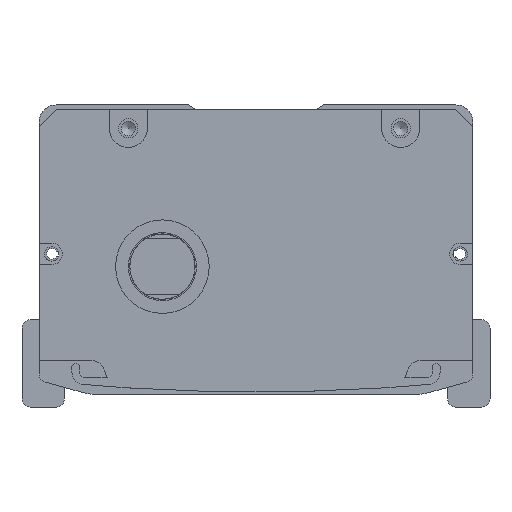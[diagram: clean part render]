
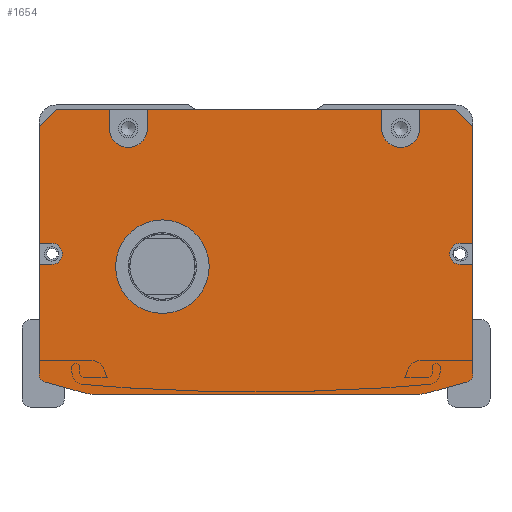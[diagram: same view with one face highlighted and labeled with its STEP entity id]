
A CAD part, front view. The second image highlights one B-rep face of the part: STEP entity #1654.
In plain terms, the highlighted planar face has unit normal (0, -1, 0).
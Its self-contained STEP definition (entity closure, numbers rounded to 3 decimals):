
#990=FACE_BOUND('',#3118,.T.);
#991=FACE_BOUND('',#3119,.T.);
#1654=ADVANCED_FACE('',(#990,#991),#2265,.F.);
#2265=PLANE('',#11995);
#3118=EDGE_LOOP('',(#5507,#5508,#5509,#5510,#5511,#5512,#5513,#5514,#5515,
#5516,#5517,#5518,#5519,#5520,#5521,#5522,#5523,#5524,#5525,#5526,#5527,
#5528,#5529,#5530,#5531,#5532,#5533,#5534));
#3119=EDGE_LOOP('',(#5535));
#4097=CIRCLE('',#11986,4.5);
#4098=CIRCLE('',#11987,4.5);
#4099=CIRCLE('',#11988,2.5);
#4100=CIRCLE('',#11989,2.);
#4101=CIRCLE('',#11990,10.);
#4102=CIRCLE('',#11991,10.);
#4103=CIRCLE('',#11992,2.);
#4104=CIRCLE('',#11993,2.5);
#4105=CIRCLE('',#11994,11.);
#5507=ORIENTED_EDGE('',*,*,#8872,.T.);
#5508=ORIENTED_EDGE('',*,*,#9290,.T.);
#5509=ORIENTED_EDGE('',*,*,#9291,.T.);
#5510=ORIENTED_EDGE('',*,*,#9292,.F.);
#5511=ORIENTED_EDGE('',*,*,#9293,.T.);
#5512=ORIENTED_EDGE('',*,*,#9294,.F.);
#5513=ORIENTED_EDGE('',*,*,#9295,.T.);
#5514=ORIENTED_EDGE('',*,*,#9296,.F.);
#5515=ORIENTED_EDGE('',*,*,#9297,.T.);
#5516=ORIENTED_EDGE('',*,*,#9298,.F.);
#5517=ORIENTED_EDGE('',*,*,#9299,.T.);
#5518=ORIENTED_EDGE('',*,*,#9300,.T.);
#5519=ORIENTED_EDGE('',*,*,#8904,.T.);
#5520=ORIENTED_EDGE('',*,*,#9301,.T.);
#5521=ORIENTED_EDGE('',*,*,#9302,.T.);
#5522=ORIENTED_EDGE('',*,*,#9303,.T.);
#5523=ORIENTED_EDGE('',*,*,#8900,.T.);
#5524=ORIENTED_EDGE('',*,*,#9304,.T.);
#5525=ORIENTED_EDGE('',*,*,#9305,.T.);
#5526=ORIENTED_EDGE('',*,*,#9306,.T.);
#5527=ORIENTED_EDGE('',*,*,#9307,.T.);
#5528=ORIENTED_EDGE('',*,*,#9308,.T.);
#5529=ORIENTED_EDGE('',*,*,#9309,.T.);
#5530=ORIENTED_EDGE('',*,*,#9310,.T.);
#5531=ORIENTED_EDGE('',*,*,#8876,.T.);
#5532=ORIENTED_EDGE('',*,*,#9311,.T.);
#5533=ORIENTED_EDGE('',*,*,#9312,.T.);
#5534=ORIENTED_EDGE('',*,*,#9313,.T.);
#5535=ORIENTED_EDGE('',*,*,#9314,.T.);
#7734=VERTEX_POINT('',#16532);
#7735=VERTEX_POINT('',#16534);
#7738=VERTEX_POINT('',#16540);
#7739=VERTEX_POINT('',#16542);
#7760=VERTEX_POINT('',#16587);
#7761=VERTEX_POINT('',#16589);
#7764=VERTEX_POINT('',#16595);
#7765=VERTEX_POINT('',#16597);
#8030=VERTEX_POINT('',#17394);
#8031=VERTEX_POINT('',#17396);
#8032=VERTEX_POINT('',#17398);
#8033=VERTEX_POINT('',#17400);
#8034=VERTEX_POINT('',#17402);
#8035=VERTEX_POINT('',#17404);
#8036=VERTEX_POINT('',#17406);
#8037=VERTEX_POINT('',#17408);
#8038=VERTEX_POINT('',#17410);
#8039=VERTEX_POINT('',#17412);
#8040=VERTEX_POINT('',#17415);
#8041=VERTEX_POINT('',#17417);
#8042=VERTEX_POINT('',#17420);
#8043=VERTEX_POINT('',#17422);
#8044=VERTEX_POINT('',#17424);
#8045=VERTEX_POINT('',#17426);
#8046=VERTEX_POINT('',#17428);
#8047=VERTEX_POINT('',#17430);
#8048=VERTEX_POINT('',#17433);
#8049=VERTEX_POINT('',#17435);
#8050=VERTEX_POINT('',#17438);
#8872=EDGE_CURVE('',#7735,#7734,#10323,.T.);
#8876=EDGE_CURVE('',#7739,#7738,#10327,.T.);
#8900=EDGE_CURVE('',#7761,#7760,#10351,.T.);
#8904=EDGE_CURVE('',#7765,#7764,#10355,.T.);
#9290=EDGE_CURVE('',#7734,#8030,#10588,.T.);
#9291=EDGE_CURVE('',#8030,#8031,#10589,.T.);
#9292=EDGE_CURVE('',#8032,#8031,#10590,.T.);
#9293=EDGE_CURVE('',#8032,#8033,#4097,.T.);
#9294=EDGE_CURVE('',#8034,#8033,#10591,.T.);
#9295=EDGE_CURVE('',#8034,#8035,#10592,.T.);
#9296=EDGE_CURVE('',#8036,#8035,#10593,.T.);
#9297=EDGE_CURVE('',#8036,#8037,#4098,.T.);
#9298=EDGE_CURVE('',#8038,#8037,#10594,.T.);
#9299=EDGE_CURVE('',#8038,#8039,#10595,.T.);
#9300=EDGE_CURVE('',#8039,#7765,#10596,.T.);
#9301=EDGE_CURVE('',#7764,#8040,#10597,.T.);
#9302=EDGE_CURVE('',#8040,#8041,#4099,.T.);
#9303=EDGE_CURVE('',#8041,#7761,#10598,.T.);
#9304=EDGE_CURVE('',#7760,#8042,#4100,.T.);
#9305=EDGE_CURVE('',#8042,#8043,#10599,.T.);
#9306=EDGE_CURVE('',#8043,#8044,#4101,.T.);
#9307=EDGE_CURVE('',#8044,#8045,#10600,.T.);
#9308=EDGE_CURVE('',#8045,#8046,#4102,.T.);
#9309=EDGE_CURVE('',#8046,#8047,#10601,.T.);
#9310=EDGE_CURVE('',#8047,#7739,#4103,.T.);
#9311=EDGE_CURVE('',#7738,#8048,#10602,.T.);
#9312=EDGE_CURVE('',#8048,#8049,#4104,.T.);
#9313=EDGE_CURVE('',#8049,#7735,#10603,.T.);
#9314=EDGE_CURVE('',#8050,#8050,#4105,.T.);
#10323=LINE('',#16533,#10976);
#10327=LINE('',#16541,#10980);
#10351=LINE('',#16588,#11004);
#10355=LINE('',#16596,#11008);
#10588=LINE('',#17393,#11241);
#10589=LINE('',#17395,#11242);
#10590=LINE('',#17397,#11243);
#10591=LINE('',#17401,#11244);
#10592=LINE('',#17403,#11245);
#10593=LINE('',#17405,#11246);
#10594=LINE('',#17409,#11247);
#10595=LINE('',#17411,#11248);
#10596=LINE('',#17413,#11249);
#10597=LINE('',#17414,#11250);
#10598=LINE('',#17418,#11251);
#10599=LINE('',#17421,#11252);
#10600=LINE('',#17425,#11253);
#10601=LINE('',#17429,#11254);
#10602=LINE('',#17432,#11255);
#10603=LINE('',#17436,#11256);
#10976=VECTOR('',#13198,1.);
#10980=VECTOR('',#13202,1.);
#11004=VECTOR('',#13228,1.);
#11008=VECTOR('',#13232,1.);
#11241=VECTOR('',#14063,1.);
#11242=VECTOR('',#14064,1.);
#11243=VECTOR('',#14065,1.);
#11244=VECTOR('',#14068,1.);
#11245=VECTOR('',#14069,1.);
#11246=VECTOR('',#14070,1.);
#11247=VECTOR('',#14073,1.);
#11248=VECTOR('',#14074,1.);
#11249=VECTOR('',#14075,1.);
#11250=VECTOR('',#14076,1.);
#11251=VECTOR('',#14079,1.);
#11252=VECTOR('',#14082,1.);
#11253=VECTOR('',#14085,1.);
#11254=VECTOR('',#14088,1.);
#11255=VECTOR('',#14091,1.);
#11256=VECTOR('',#14094,1.);
#11986=AXIS2_PLACEMENT_3D('',#17399,#14066,#14067);
#11987=AXIS2_PLACEMENT_3D('',#17407,#14071,#14072);
#11988=AXIS2_PLACEMENT_3D('',#17416,#14077,#14078);
#11989=AXIS2_PLACEMENT_3D('',#17419,#14080,#14081);
#11990=AXIS2_PLACEMENT_3D('',#17423,#14083,#14084);
#11991=AXIS2_PLACEMENT_3D('',#17427,#14086,#14087);
#11992=AXIS2_PLACEMENT_3D('',#17431,#14089,#14090);
#11993=AXIS2_PLACEMENT_3D('',#17434,#14092,#14093);
#11994=AXIS2_PLACEMENT_3D('',#17437,#14095,#14096);
#11995=AXIS2_PLACEMENT_3D('',#17439,#14097,#14098);
#13198=DIRECTION('',(0.,0.,1.));
#13202=DIRECTION('',(0.,0.,1.));
#13228=DIRECTION('',(0.,0.,-1.));
#13232=DIRECTION('',(0.,0.,-1.));
#14063=DIRECTION('',(-0.707,0.,0.707));
#14064=DIRECTION('',(-1.,0.,0.));
#14065=DIRECTION('',(0.,0.,1.));
#14066=DIRECTION('',(0.,1.,0.));
#14067=DIRECTION('',(0.,0.,1.));
#14068=DIRECTION('',(0.,0.,-1.));
#14069=DIRECTION('',(-1.,0.,0.));
#14070=DIRECTION('',(0.,0.,1.));
#14071=DIRECTION('',(0.,1.,0.));
#14072=DIRECTION('',(0.,0.,1.));
#14073=DIRECTION('',(0.,0.,-1.));
#14074=DIRECTION('',(-1.,0.,0.));
#14075=DIRECTION('',(-0.707,0.,-0.707));
#14076=DIRECTION('',(1.,0.,0.));
#14077=DIRECTION('',(0.,1.,0.));
#14078=DIRECTION('',(0.,0.,1.));
#14079=DIRECTION('',(-1.,0.,0.));
#14080=DIRECTION('',(0.,-1.,0.));
#14081=DIRECTION('',(0.,0.,1.));
#14082=DIRECTION('',(0.963,0.,-0.269));
#14083=DIRECTION('',(0.,-1.,0.));
#14084=DIRECTION('',(0.,0.,1.));
#14085=DIRECTION('',(1.,0.,0.));
#14086=DIRECTION('',(0.,-1.,0.));
#14087=DIRECTION('',(0.,0.,-1.));
#14088=DIRECTION('',(0.963,0.,0.269));
#14089=DIRECTION('',(0.,-1.,0.));
#14090=DIRECTION('',(0.,0.,-1.));
#14091=DIRECTION('',(-1.,0.,0.));
#14092=DIRECTION('',(0.,1.,0.));
#14093=DIRECTION('',(0.,0.,1.));
#14094=DIRECTION('',(1.,0.,0.));
#14095=DIRECTION('',(0.,1.,0.));
#14096=DIRECTION('',(0.,0.,1.));
#14097=DIRECTION('',(0.,1.,0.));
#14098=DIRECTION('',(1.,0.,0.));
#16532=CARTESIAN_POINT('',(47.808,-707.5,-5.));
#16533=CARTESIAN_POINT('',(47.808,-707.5,-1.));
#16534=CARTESIAN_POINT('',(47.808,-707.5,-32.5));
#16540=CARTESIAN_POINT('',(47.808,-707.5,-37.5));
#16541=CARTESIAN_POINT('',(47.808,-707.5,-1.));
#16542=CARTESIAN_POINT('',(47.808,-707.5,-63.212));
#16587=CARTESIAN_POINT('',(-54.192,-707.5,-63.212));
#16588=CARTESIAN_POINT('',(-54.192,-707.5,-62.));
#16589=CARTESIAN_POINT('',(-54.192,-707.5,-37.5));
#16595=CARTESIAN_POINT('',(-54.192,-707.5,-32.5));
#16596=CARTESIAN_POINT('',(-54.192,-707.5,-62.));
#16597=CARTESIAN_POINT('',(-54.192,-707.5,-5.));
#17393=CARTESIAN_POINT('',(43.808,-707.5,-1.));
#17394=CARTESIAN_POINT('',(43.808,-707.5,-1.));
#17395=CARTESIAN_POINT('',(-3.192,-707.5,-1.));
#17396=CARTESIAN_POINT('',(35.308,-707.5,-1.));
#17397=CARTESIAN_POINT('',(35.308,-707.5,-1.));
#17398=CARTESIAN_POINT('',(35.308,-707.5,-5.5));
#17399=CARTESIAN_POINT('',(30.808,-707.5,-5.5));
#17400=CARTESIAN_POINT('',(26.308,-707.5,-5.5));
#17401=CARTESIAN_POINT('',(26.308,-707.5,-1.));
#17402=CARTESIAN_POINT('',(26.308,-707.5,-1.));
#17403=CARTESIAN_POINT('',(-54.192,-707.5,-1.));
#17404=CARTESIAN_POINT('',(-28.692,-707.5,-1.));
#17405=CARTESIAN_POINT('',(-28.692,-707.5,-3.5));
#17406=CARTESIAN_POINT('',(-28.692,-707.5,-5.5));
#17407=CARTESIAN_POINT('',(-33.192,-707.5,-5.5));
#17408=CARTESIAN_POINT('',(-37.692,-707.5,-5.5));
#17409=CARTESIAN_POINT('',(-37.692,-707.5,-1.));
#17410=CARTESIAN_POINT('',(-37.692,-707.5,-1.));
#17411=CARTESIAN_POINT('',(-54.192,-707.5,-1.));
#17412=CARTESIAN_POINT('',(-50.192,-707.5,-1.));
#17413=CARTESIAN_POINT('',(-54.192,-707.5,-5.));
#17414=CARTESIAN_POINT('',(-3.192,-707.5,-32.5));
#17415=CARTESIAN_POINT('',(-51.192,-707.5,-32.5));
#17416=CARTESIAN_POINT('',(-51.192,-707.5,-35.));
#17417=CARTESIAN_POINT('',(-51.192,-707.5,-37.5));
#17418=CARTESIAN_POINT('',(-3.192,-707.5,-37.5));
#17419=CARTESIAN_POINT('',(-52.192,-707.5,-63.212));
#17420=CARTESIAN_POINT('',(-52.731,-707.5,-65.138));
#17421=CARTESIAN_POINT('',(-55.807,-707.5,-64.279));
#17422=CARTESIAN_POINT('',(-43.809,-707.5,-67.631));
#17423=CARTESIAN_POINT('',(-41.118,-707.5,-58.));
#17424=CARTESIAN_POINT('',(-41.118,-707.5,-68.));
#17425=CARTESIAN_POINT('',(-54.692,-707.5,-68.));
#17426=CARTESIAN_POINT('',(34.733,-707.5,-68.));
#17427=CARTESIAN_POINT('',(34.733,-707.5,-58.));
#17428=CARTESIAN_POINT('',(37.424,-707.5,-67.631));
#17429=CARTESIAN_POINT('',(49.422,-707.5,-64.279));
#17430=CARTESIAN_POINT('',(46.346,-707.5,-65.138));
#17431=CARTESIAN_POINT('',(45.808,-707.5,-63.212));
#17432=CARTESIAN_POINT('',(-3.192,-707.5,-37.5));
#17433=CARTESIAN_POINT('',(44.808,-707.5,-37.5));
#17434=CARTESIAN_POINT('',(44.808,-707.5,-35.));
#17435=CARTESIAN_POINT('',(44.808,-707.5,-32.5));
#17436=CARTESIAN_POINT('',(-3.192,-707.5,-32.5));
#17437=CARTESIAN_POINT('',(-25.192,-707.5,-38.));
#17438=CARTESIAN_POINT('',(-25.192,-707.5,-27.));
#17439=CARTESIAN_POINT('',(-3.192,-707.5,-1.));
